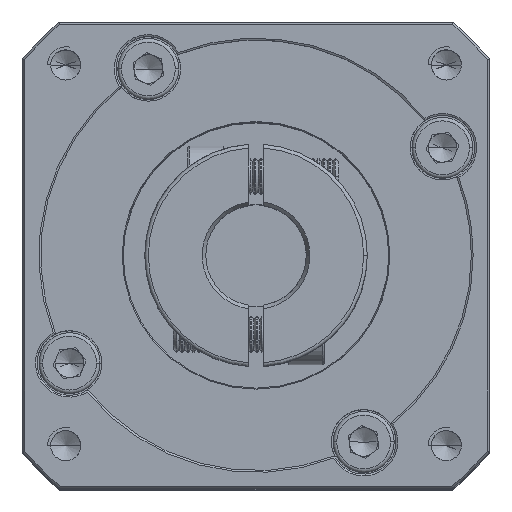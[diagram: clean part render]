
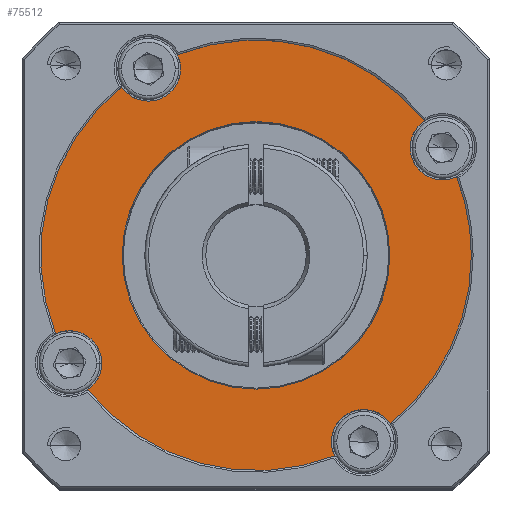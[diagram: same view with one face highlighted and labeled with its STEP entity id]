
A CAD part, top view. The second image highlights one B-rep face of the part: STEP entity #75512.
In plain terms, the highlighted planar face has unit normal (0, 0, 1).
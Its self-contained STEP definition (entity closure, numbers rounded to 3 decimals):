
#62 = AXIS2_PLACEMENT_3D ( 'NONE', #44997, #100915, #53030 ) ;
#239 = DIRECTION ( 'NONE',  ( 0., 0., 1. ) ) ;
#243 = AXIS2_PLACEMENT_3D ( 'NONE', #103794, #55883, #7916 ) ;
#1122 = CIRCLE ( 'NONE', #8751, 18.644 ) ;
#1141 = CARTESIAN_POINT ( 'NONE',  ( -72.368, 63.331, 31.124 ) ) ;
#3400 = EDGE_CURVE ( 'NONE', #66483, #92726, #96147, .T. ) ;
#4571 = DIRECTION ( 'NONE',  ( 1., 0., 0. ) ) ;
#5271 = CIRCLE ( 'NONE', #95371, 4.5 ) ;
#5783 = DIRECTION ( 'NONE',  ( 0., 0., 1. ) ) ;
#7009 = CARTESIAN_POINT ( 'NONE',  ( -43.151, 13.905, 31.124 ) ) ;
#7312 = EDGE_CURVE ( 'NONE', #15854, #103508, #1122, .T. ) ;
#7916 = DIRECTION ( 'NONE',  ( 1., 0., 0. ) ) ;
#8751 = AXIS2_PLACEMENT_3D ( 'NONE', #76510, #28557, #84468 ) ;
#9148 = AXIS2_PLACEMENT_3D ( 'NONE', #100427, #52556, #4571 ) ;
#11708 = CIRCLE ( 'NONE', #62140, 30. ) ;
#12253 = EDGE_CURVE ( 'NONE', #43407, #27141, #50447, .T. ) ;
#13783 = DIRECTION ( 'NONE',  ( 0., 0., 1. ) ) ;
#13970 = CIRCLE ( 'NONE', #23695, 30. ) ;
#14090 = EDGE_CURVE ( 'NONE', #89623, #57435, #97181, .T. ) ;
#14677 = EDGE_CURVE ( 'NONE', #55854, #54567, #18115, .T. ) ;
#14792 = EDGE_CURVE ( 'NONE', #55854, #27141, #98184, .T. ) ;
#15125 = VERTEX_POINT ( 'NONE', #51569 ) ;
#15168 = DIRECTION ( 'NONE',  ( 0., 0., 1. ) ) ;
#15738 = AXIS2_PLACEMENT_3D ( 'NONE', #77120, #29168, #85093 ) ;
#15854 = VERTEX_POINT ( 'NONE', #18876 ) ;
#18115 = CIRCLE ( 'NONE', #25888, 4.5 ) ;
#18876 = CARTESIAN_POINT ( 'NONE',  ( -35.006, 39.886, 31.124 ) ) ;
#19655 = ORIENTED_EDGE ( 'NONE', *, *, #14792, .T. ) ;
#20469 = CIRCLE ( 'NONE', #34471, 18.644 ) ;
#21389 = EDGE_LOOP ( 'NONE', ( #55221, #19655, #76494, #23412, #93385, #33651, #99961, #68694, #42864, #56054, #39378, #66028, #27614 ) ) ;
#22925 = CARTESIAN_POINT ( 'NONE',  ( -27.67, 54.886, 31.124 ) ) ;
#23412 = ORIENTED_EDGE ( 'NONE', *, *, #97906, .F. ) ;
#23695 = AXIS2_PLACEMENT_3D ( 'NONE', #32423, #88369, #40468 ) ;
#23729 = CARTESIAN_POINT ( 'NONE',  ( -38.651, 13.905, 31.124 ) ) ;
#24877 = CARTESIAN_POINT ( 'NONE',  ( -25.719, 50.831, 31.124 ) ) ;
#25888 = AXIS2_PLACEMENT_3D ( 'NONE', #61753, #13783, #69829 ) ;
#26325 = CIRCLE ( 'NONE', #62, 30. ) ;
#27141 = VERTEX_POINT ( 'NONE', #49969 ) ;
#27614 = ORIENTED_EDGE ( 'NONE', *, *, #91216, .F. ) ;
#28557 = DIRECTION ( 'NONE',  ( 0., 0., -1. ) ) ;
#29168 = DIRECTION ( 'NONE',  ( 0., 0., 1. ) ) ;
#30581 = FACE_BOUND ( 'NONE', #35111, .T. ) ;
#30944 = DIRECTION ( 'NONE',  ( 1., 0., 0. ) ) ;
#31734 = DIRECTION ( 'NONE',  ( 1., 0., 0. ) ) ;
#32325 = CARTESIAN_POINT ( 'NONE',  ( -64.596, 67.818, 31.124 ) ) ;
#32423 = CARTESIAN_POINT ( 'NONE',  ( -53.651, 39.886, 31.124 ) ) ;
#32646 = CIRCLE ( 'NONE', #9148, 4.5 ) ;
#33102 = FACE_OUTER_BOUND ( 'NONE', #21389, .T. ) ;
#33651 = ORIENTED_EDGE ( 'NONE', *, *, #79744, .T. ) ;
#34184 = ORIENTED_EDGE ( 'NONE', *, *, #63789, .T. ) ;
#34471 = AXIS2_PLACEMENT_3D ( 'NONE', #87168, #39254, #95224 ) ;
#35111 = EDGE_LOOP ( 'NONE', ( #103630, #34184 ) ) ;
#36020 = VERTEX_POINT ( 'NONE', #62714 ) ;
#38934 = EDGE_CURVE ( 'NONE', #36020, #57435, #11708, .T. ) ;
#39254 = DIRECTION ( 'NONE',  ( 0., 0., -1. ) ) ;
#39378 = ORIENTED_EDGE ( 'NONE', *, *, #44800, .F. ) ;
#40468 = DIRECTION ( 'NONE',  ( 1., 0., 0. ) ) ;
#41650 = EDGE_CURVE ( 'NONE', #74735, #89298, #26325, .T. ) ;
#42489 = CARTESIAN_POINT ( 'NONE',  ( -64.151, 65.867, 31.124 ) ) ;
#42759 = CARTESIAN_POINT ( 'NONE',  ( -38.651, 13.905, 31.124 ) ) ;
#42864 = ORIENTED_EDGE ( 'NONE', *, *, #38934, .T. ) ;
#43407 = VERTEX_POINT ( 'NONE', #7009 ) ;
#43575 = CARTESIAN_POINT ( 'NONE',  ( -79.631, 24.886, 31.124 ) ) ;
#44348 = DIRECTION ( 'NONE',  ( 0., 0., 1. ) ) ;
#44800 = EDGE_CURVE ( 'NONE', #74735, #89623, #79444, .T. ) ;
#44997 = CARTESIAN_POINT ( 'NONE',  ( -53.651, 39.886, 31.124 ) ) ;
#45523 = VERTEX_POINT ( 'NONE', #56068 ) ;
#47385 = AXIS2_PLACEMENT_3D ( 'NONE', #63132, #15168, #71208 ) ;
#48231 = CARTESIAN_POINT ( 'NONE',  ( -53.651, 39.886, 31.124 ) ) ;
#49969 = CARTESIAN_POINT ( 'NONE',  ( -42.706, 11.954, 31.124 ) ) ;
#50447 = CIRCLE ( 'NONE', #51000, 4.5 ) ;
#50828 = DIRECTION ( 'NONE',  ( 1., 0., 0. ) ) ;
#51000 = AXIS2_PLACEMENT_3D ( 'NONE', #42759, #98686, #50828 ) ;
#51569 = CARTESIAN_POINT ( 'NONE',  ( -23.651, 39.886, 31.124 ) ) ;
#51622 = DIRECTION ( 'NONE',  ( 1., 0., 0. ) ) ;
#52556 = DIRECTION ( 'NONE',  ( 0., 0., 1. ) ) ;
#52848 = CIRCLE ( 'NONE', #68927, 4.5 ) ;
#53030 = DIRECTION ( 'NONE',  ( 1., 0., 0. ) ) ;
#53734 = CARTESIAN_POINT ( 'NONE',  ( -53.651, 39.886, 31.124 ) ) ;
#54567 = VERTEX_POINT ( 'NONE', #81644 ) ;
#55221 = ORIENTED_EDGE ( 'NONE', *, *, #14677, .F. ) ;
#55854 = VERTEX_POINT ( 'NONE', #68503 ) ;
#55883 = DIRECTION ( 'NONE',  ( 0., 0., 1. ) ) ;
#56054 = ORIENTED_EDGE ( 'NONE', *, *, #14090, .F. ) ;
#56068 = CARTESIAN_POINT ( 'NONE',  ( -34.933, 16.441, 31.124 ) ) ;
#56252 = DIRECTION ( 'NONE',  ( 1., 0., 0. ) ) ;
#57435 = VERTEX_POINT ( 'NONE', #32325 ) ;
#61732 = DIRECTION ( 'NONE',  ( 1., 0., 0. ) ) ;
#61753 = CARTESIAN_POINT ( 'NONE',  ( -79.631, 24.886, 31.124 ) ) ;
#62140 = AXIS2_PLACEMENT_3D ( 'NONE', #53734, #5783, #61732 ) ;
#62714 = CARTESIAN_POINT ( 'NONE',  ( -30.206, 58.603, 31.124 ) ) ;
#63132 = CARTESIAN_POINT ( 'NONE',  ( -53.651, 39.886, 31.124 ) ) ;
#63789 = EDGE_CURVE ( 'NONE', #103508, #15854, #20469, .T. ) ;
#64184 = AXIS2_PLACEMENT_3D ( 'NONE', #92202, #44348, #100282 ) ;
#66028 = ORIENTED_EDGE ( 'NONE', *, *, #41650, .T. ) ;
#66483 = VERTEX_POINT ( 'NONE', #73530 ) ;
#68503 = CARTESIAN_POINT ( 'NONE',  ( -77.095, 21.169, 31.124 ) ) ;
#68694 = ORIENTED_EDGE ( 'NONE', *, *, #71157, .F. ) ;
#68743 = CARTESIAN_POINT ( 'NONE',  ( -72.295, 39.886, 31.124 ) ) ;
#68927 = AXIS2_PLACEMENT_3D ( 'NONE', #43575, #99481, #51622 ) ;
#69156 = CARTESIAN_POINT ( 'NONE',  ( -81.583, 28.941, 31.124 ) ) ;
#69829 = DIRECTION ( 'NONE',  ( 1., 0., 0. ) ) ;
#71157 = EDGE_CURVE ( 'NONE', #36020, #66483, #32646, .T. ) ;
#71208 = DIRECTION ( 'NONE',  ( 1., 0., 0. ) ) ;
#71638 = PLANE ( 'NONE',  #243 ) ;
#73530 = CARTESIAN_POINT ( 'NONE',  ( -32.17, 54.886, 31.124 ) ) ;
#74735 = VERTEX_POINT ( 'NONE', #1141 ) ;
#75512 = ADVANCED_FACE ( 'NONE', ( #30581, #33102 ), #71638, .T. ) ;
#76494 = ORIENTED_EDGE ( 'NONE', *, *, #12253, .F. ) ;
#76510 = CARTESIAN_POINT ( 'NONE',  ( -53.651, 39.886, 31.124 ) ) ;
#77120 = CARTESIAN_POINT ( 'NONE',  ( -68.651, 65.867, 31.124 ) ) ;
#78911 = DIRECTION ( 'NONE',  ( 0., 0., 1. ) ) ;
#79444 = CIRCLE ( 'NONE', #64184, 4.5 ) ;
#79526 = AXIS2_PLACEMENT_3D ( 'NONE', #22925, #78911, #30944 ) ;
#79712 = DIRECTION ( 'NONE',  ( 0., 0., 1. ) ) ;
#79744 = EDGE_CURVE ( 'NONE', #15125, #92726, #99988, .T. ) ;
#81644 = CARTESIAN_POINT ( 'NONE',  ( -75.131, 24.886, 31.124 ) ) ;
#84329 = AXIS2_PLACEMENT_3D ( 'NONE', #48231, #239, #56252 ) ;
#84468 = DIRECTION ( 'NONE',  ( 1., 0., 0. ) ) ;
#85093 = DIRECTION ( 'NONE',  ( 1., 0., 0. ) ) ;
#87168 = CARTESIAN_POINT ( 'NONE',  ( -53.651, 39.886, 31.124 ) ) ;
#88369 = DIRECTION ( 'NONE',  ( 0., 0., 1. ) ) ;
#89298 = VERTEX_POINT ( 'NONE', #69156 ) ;
#89623 = VERTEX_POINT ( 'NONE', #42489 ) ;
#91216 = EDGE_CURVE ( 'NONE', #54567, #89298, #52848, .T. ) ;
#92202 = CARTESIAN_POINT ( 'NONE',  ( -68.651, 65.867, 31.124 ) ) ;
#92726 = VERTEX_POINT ( 'NONE', #24877 ) ;
#93385 = ORIENTED_EDGE ( 'NONE', *, *, #97997, .T. ) ;
#95224 = DIRECTION ( 'NONE',  ( 1., 0., 0. ) ) ;
#95371 = AXIS2_PLACEMENT_3D ( 'NONE', #23729, #79712, #31734 ) ;
#96147 = CIRCLE ( 'NONE', #79526, 4.5 ) ;
#97181 = CIRCLE ( 'NONE', #15738, 4.5 ) ;
#97906 = EDGE_CURVE ( 'NONE', #45523, #43407, #5271, .T. ) ;
#97997 = EDGE_CURVE ( 'NONE', #45523, #15125, #13970, .T. ) ;
#98184 = CIRCLE ( 'NONE', #47385, 30. ) ;
#98686 = DIRECTION ( 'NONE',  ( 0., 0., 1. ) ) ;
#99481 = DIRECTION ( 'NONE',  ( 0., 0., 1. ) ) ;
#99961 = ORIENTED_EDGE ( 'NONE', *, *, #3400, .F. ) ;
#99988 = CIRCLE ( 'NONE', #84329, 30. ) ;
#100282 = DIRECTION ( 'NONE',  ( 1., 0., 0. ) ) ;
#100427 = CARTESIAN_POINT ( 'NONE',  ( -27.67, 54.886, 31.124 ) ) ;
#100915 = DIRECTION ( 'NONE',  ( 0., 0., 1. ) ) ;
#103508 = VERTEX_POINT ( 'NONE', #68743 ) ;
#103630 = ORIENTED_EDGE ( 'NONE', *, *, #7312, .T. ) ;
#103794 = CARTESIAN_POINT ( 'NONE',  ( -53.651, 39.886, 31.124 ) ) ;
